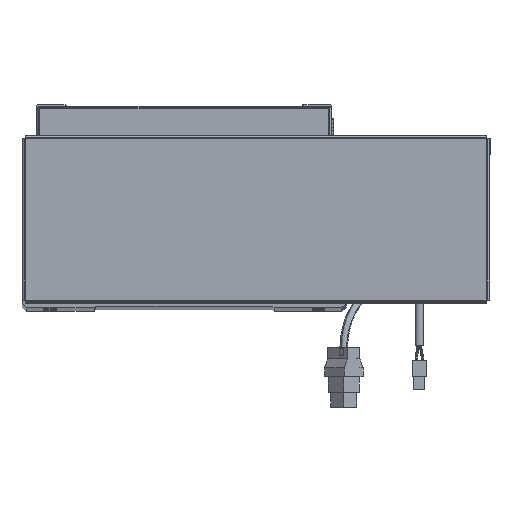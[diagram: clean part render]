
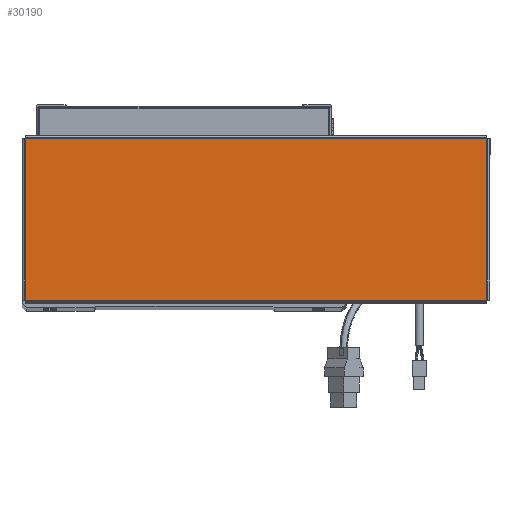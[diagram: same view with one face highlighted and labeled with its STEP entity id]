
A CAD part, top view. The second image highlights one B-rep face of the part: STEP entity #30190.
In plain terms, the highlighted planar face has unit normal (0, 0, 1).
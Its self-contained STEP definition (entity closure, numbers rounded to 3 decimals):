
#725 = DIRECTION ( 'NONE',  ( -1., 0., 0. ) ) ;
#1214 = CARTESIAN_POINT ( 'NONE',  ( -156.513, 54.793, 0. ) ) ;
#3405 = CARTESIAN_POINT ( 'NONE',  ( -156.543, -54.763, 0. ) ) ;
#4957 = LINE ( 'NONE', #1214, #20646 ) ;
#5037 = VERTEX_POINT ( 'NONE', #57601 ) ;
#7269 = ORIENTED_EDGE ( 'NONE', *, *, #27961, .T. ) ;
#9349 = PLANE ( 'NONE',  #47220 ) ;
#15153 = LINE ( 'NONE', #3405, #67880 ) ;
#16203 = EDGE_CURVE ( 'NONE', #5037, #35723, #15153, .T. ) ;
#19938 = VERTEX_POINT ( 'NONE', #48451 ) ;
#20646 = VECTOR ( 'NONE', #22889, 1000. ) ;
#22715 = CARTESIAN_POINT ( 'NONE',  ( 156.513, -54.793, 0. ) ) ;
#22889 = DIRECTION ( 'NONE',  ( 0., -1., 0. ) ) ;
#23989 = DIRECTION ( 'NONE',  ( 1., 0., 0. ) ) ;
#24628 = DIRECTION ( 'NONE',  ( 0., 0., 1. ) ) ;
#27074 = VECTOR ( 'NONE', #725, 1000. ) ;
#27961 = EDGE_CURVE ( 'NONE', #35723, #45300, #58205, .T. ) ;
#30190 = ADVANCED_FACE ( 'NONE', ( #53867 ), #9349, .T. ) ;
#31668 = CARTESIAN_POINT ( 'NONE',  ( 156.543, 54.763, 0. ) ) ;
#33534 = DIRECTION ( 'NONE',  ( 0., 1., 0. ) ) ;
#34263 = EDGE_CURVE ( 'NONE', #19938, #5037, #4957, .T. ) ;
#35723 = VERTEX_POINT ( 'NONE', #55674 ) ;
#39985 = CARTESIAN_POINT ( 'NONE',  ( 156.513, 54.763, 0. ) ) ;
#40079 = VECTOR ( 'NONE', #33534, 1000. ) ;
#43299 = ORIENTED_EDGE ( 'NONE', *, *, #34263, .T. ) ;
#45300 = VERTEX_POINT ( 'NONE', #39985 ) ;
#47220 = AXIS2_PLACEMENT_3D ( 'NONE', #50640, #24628, #51569 ) ;
#47597 = ORIENTED_EDGE ( 'NONE', *, *, #54406, .T. ) ;
#47676 = LINE ( 'NONE', #31668, #27074 ) ;
#48451 = CARTESIAN_POINT ( 'NONE',  ( -156.513, 54.763, 0. ) ) ;
#50640 = CARTESIAN_POINT ( 'NONE',  ( 0., 0., 0. ) ) ;
#51569 = DIRECTION ( 'NONE',  ( 1., 0., 0. ) ) ;
#53867 = FACE_OUTER_BOUND ( 'NONE', #57344, .T. ) ;
#54406 = EDGE_CURVE ( 'NONE', #45300, #19938, #47676, .T. ) ;
#55674 = CARTESIAN_POINT ( 'NONE',  ( 156.513, -54.763, 0. ) ) ;
#57344 = EDGE_LOOP ( 'NONE', ( #62458, #7269, #47597, #43299 ) ) ;
#57601 = CARTESIAN_POINT ( 'NONE',  ( -156.513, -54.763, 0. ) ) ;
#58205 = LINE ( 'NONE', #22715, #40079 ) ;
#62458 = ORIENTED_EDGE ( 'NONE', *, *, #16203, .T. ) ;
#67880 = VECTOR ( 'NONE', #23989, 1000. ) ;
